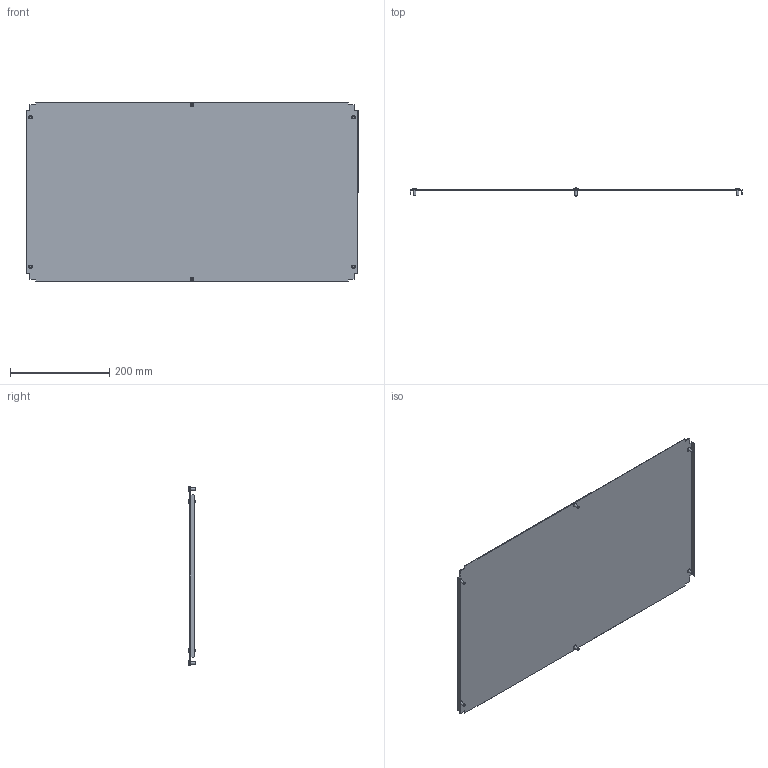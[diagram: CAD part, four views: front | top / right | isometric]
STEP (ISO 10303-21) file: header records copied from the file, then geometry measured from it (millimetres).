
FILE_DESCRIPTION (( 'STEP AP203' ), '1' );
FILE_NAME ('R5N1BP85.STEP', '2025-02-21T13:53:17', ( '' ), ( '' ), 'SwSTEP 2.0', 'SolidWorks 2022', '' );
FILE_SCHEMA (( 'CONFIG_CONTROL_DESIGN' ));
Length unit declared in the file: millimetre
Products named in the file (3): RB.1923.00.00.0_-24; R5N1BP85; M5x12 DIN 7500 C Torx Zinc_stright
Assembly tree (7 placements, depth 2):
  R5N1BP85
    RB.1923.00.00.0_-24
    M5x12 DIN 7500 C Torx Zinc_stright  x6
Bounding box: 668 x 15.56 x 362 mm (x, y, z)
Volume: 371086 mm3; surface area: 497269.4 mm2
Topology: 7 solids, 7 shells, 166 faces, 384 edges, 238 vertices
Faces by surface type: plane 106, cylinder 24, torus 12, cone 12, sphere 6, bspline 6
Full cylindrical faces by diameter (mm): 5 x6, 9.5 x6
Entity records: 3297 total; most frequent: CARTESIAN_POINT 674, ORIENTED_EDGE 448, DIRECTION 444, EDGE_CURVE 224, VECTOR 180, LINE 180, VERTEX_POINT 150, AXIS2_PLACEMENT_3D 132
